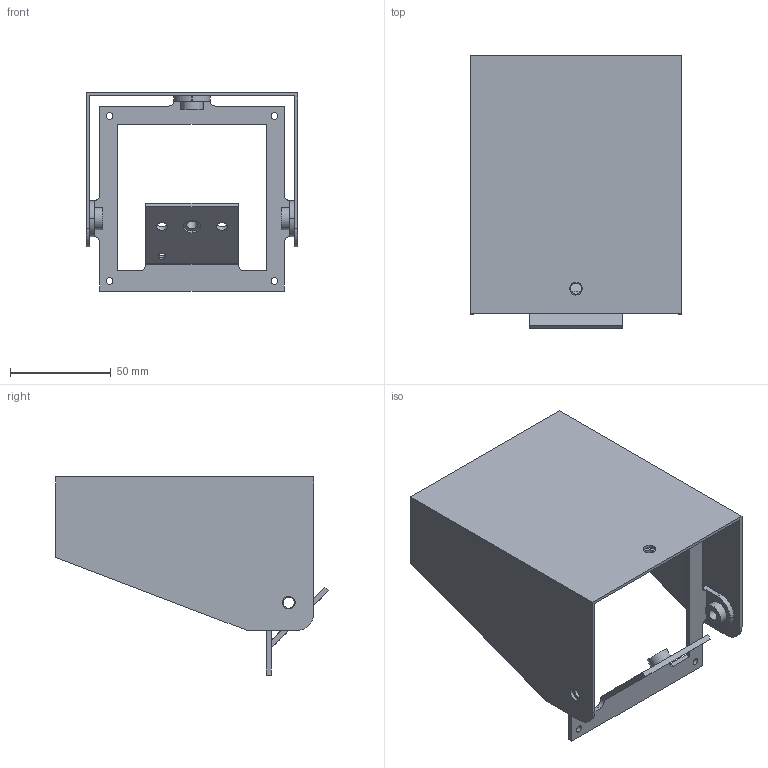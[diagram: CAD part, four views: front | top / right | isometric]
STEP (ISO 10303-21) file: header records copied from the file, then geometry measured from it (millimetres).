
FILE_DESCRIPTION(('FreeCAD Model'),'2;1');
FILE_NAME('Open CASCADE Shape Model','2025-01-31T22:25:56',(''),(''), 'Open CASCADE STEP processor 7.6','FreeCAD','Unknown');
FILE_SCHEMA(('AUTOMOTIVE_DESIGN { 1 0 10303 214 1 1 1 1 }'));
Length unit declared in the file: millimetre
Products named in the file (3): Unnamed; Camera Case 100 Rig Angle 45 for Awning Cover - Simplified002; Camera Case 100 - Awning Cover - Simplified002
Assembly tree (2 placements, depth 2):
  Unnamed
    Camera Case 100 Rig Angle 45 for Awning Cover - Simplified002
    Camera Case 100 - Awning Cover - Simplified002
Bounding box: 105 x 135.75 x 98.5 mm (x, y, z)
Volume: 59737.2 mm3; surface area: 75364.6 mm2
Topology: 2 solids, 5 shells, 110 faces, 283 edges, 192 vertices
Faces by surface type: plane 61, cylinder 47, cone 2
Full cylindrical faces by diameter (mm): 3 x1, 3.3 x4, 5.105 x1, 5.5 x5, 6.3 x3, 8.712 x1, 8.738 x1, 8.75 x6, 11 x6, 11.176 x1
Entity records: 7338 total; most frequent: CARTESIAN_POINT 1431, DIRECTION 1126, LINE 609, VECTOR 609, ORIENTED_EDGE 566, PCURVE 566, DEFINITIONAL_REPRESENTATION 566, EDGE_CURVE 283
